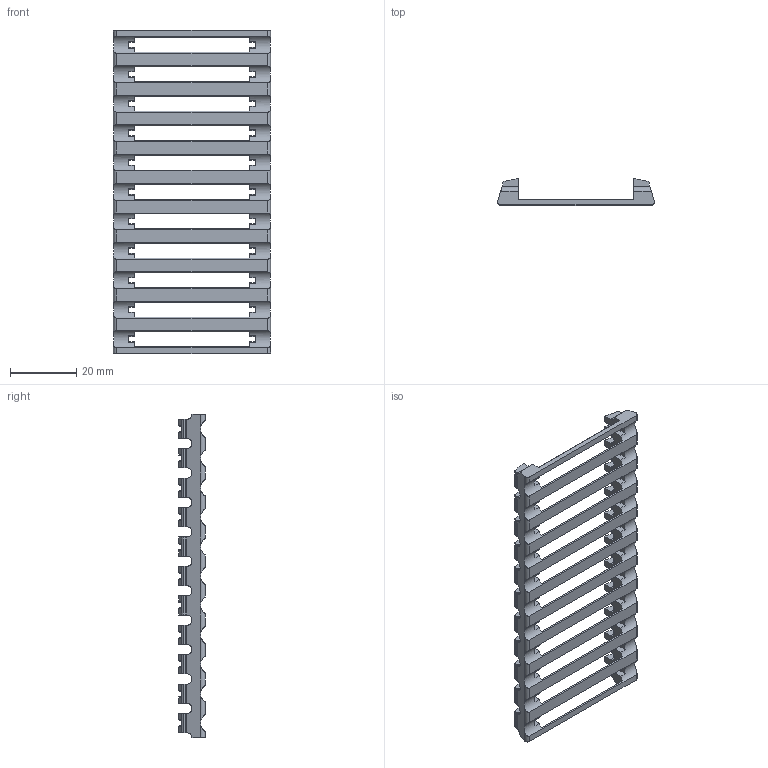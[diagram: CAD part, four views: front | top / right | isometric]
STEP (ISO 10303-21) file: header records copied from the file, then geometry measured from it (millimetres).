
FILE_DESCRIPTION(/* description */ ('Арт.CA064457-04'),/* implementation_level */ '2;1');
FILE_NAME(/* name */ 'C:\1\Проекты\!В РАБОТЕ\Модуль протяжки кондуторов Ориентатор флакона L2 Арт.CA064457\Опора роликов модуля протяжки Ориентатор флакона L2 Арт.CA064457-04 (Нейлон 3D печать).stp',/* time_stamp */ '2026-05-05T08:06:34+03:00',/* author */ ('Asus'),/* organization */ (''),/* preprocessor_version */ 'ST-DEVELOPER v18.1',/* originating_system */ 'Autodesk Inventor 2021',/* authorisation */ '');
FILE_SCHEMA (('AUTOMOTIVE_DESIGN { 1 0 10303 214 3 1 1 }'));
Length unit declared in the file: millimetre
Products named in the file (1): Опора роликов модуля 
протяжки Ориентатор 
флакона L2
Bounding box: 47.5 x 8 x 98 mm (x, y, z)
Volume: 7078.3 mm3; surface area: 9652 mm2
Topology: 1 solids, 1 shells, 551 faces, 1680 edges, 1120 vertices
Faces by surface type: plane 326, cylinder 181, cone 44
Entity records: 19435 total; most frequent: CARTESIAN_POINT 4012, ORIENTED_EDGE 3360, DIRECTION 3212, EDGE_CURVE 1680, VERTEX_POINT 1120, LINE 1076, VECTOR 1076, AXIS2_PLACEMENT_3D 1068
